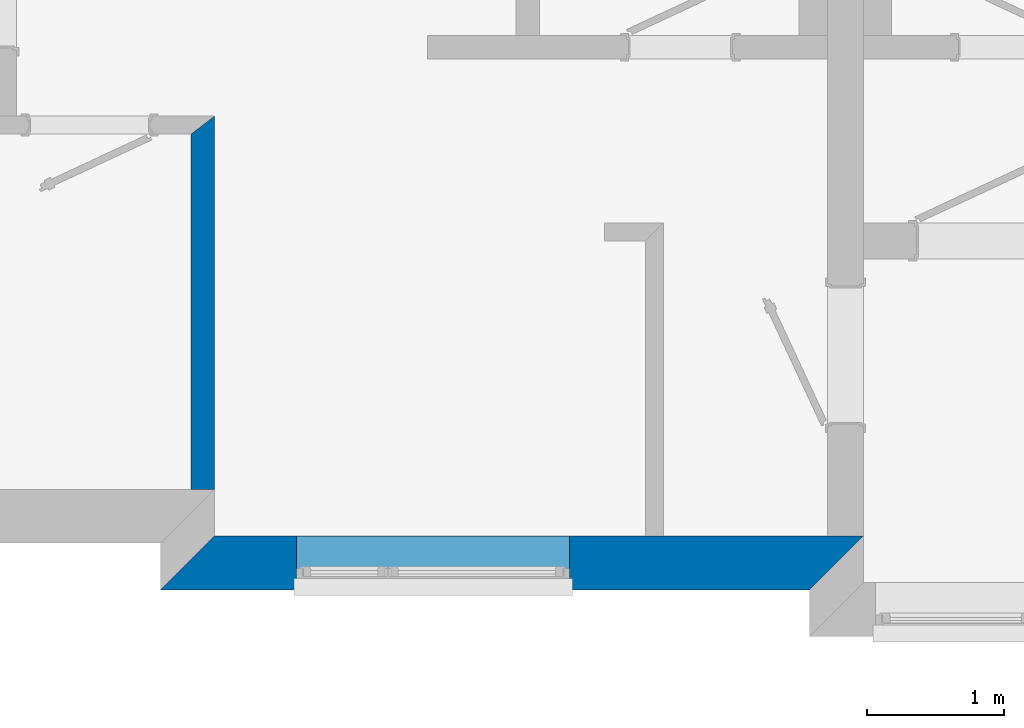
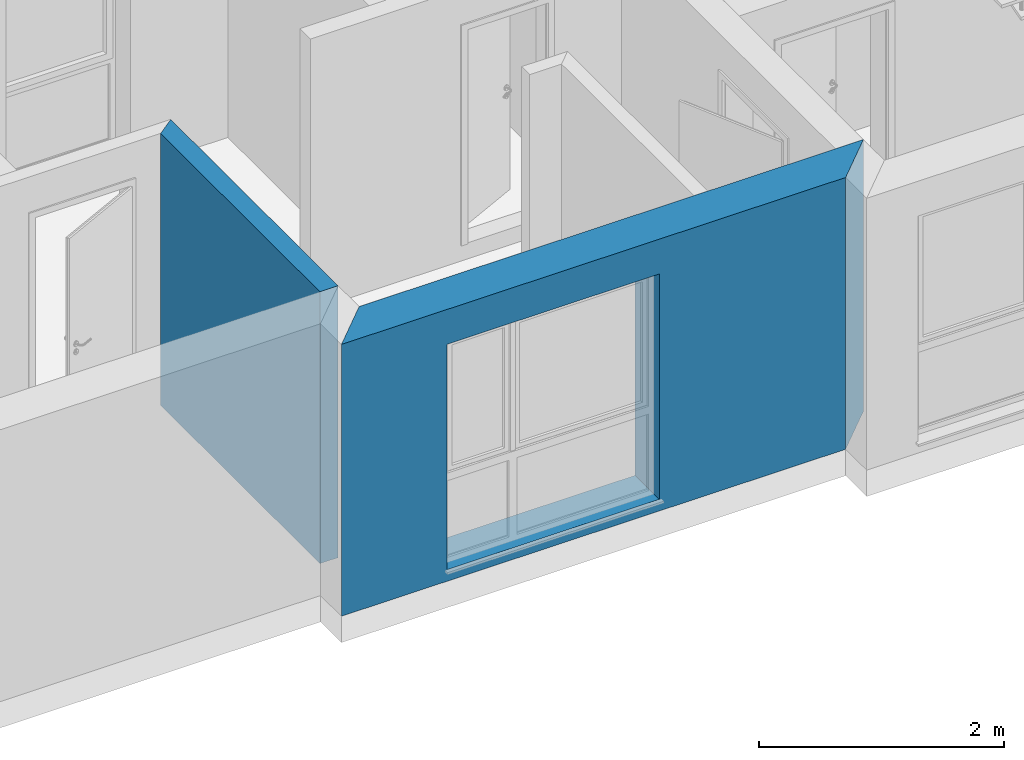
# One storey, part 2 of 16: 2 walls, 1 opening.
"""IFC2X3 building model written with IfcOpenShell, lengths in millimetres."""

from ifc_helpers import new_model, si_unit, frame, origin_with_axes, place, context, project, spatial, faceted_brep, material, layer, layer_set, layer_usage, element, save


model = new_model("IFC2X3")

# Units and contexts
model_context = context("Model", 3, world=origin_with_axes())
ifc_project = project(units=[si_unit("LENGTHUNIT", "METRE", prefix="MILLI")], contexts=[model_context])

# Site, building, storey
site_placement = place(None, origin_with_axes())
site = spatial("IfcSite", under=ifc_project, at=site_placement, Name="Site", CompositionType="ELEMENT")
building_placement = place(site_placement, origin_with_axes())
building = spatial("IfcBuilding", under=site, at=building_placement, Name="?", CompositionType="ELEMENT")
storey_placement = place(building_placement, frame((0.0, 0.0, 2969.0), z_axis=(0.0, 0.0, 1.0), x_axis=(1.0, 0.0, 0.0)))
storey = spatial("IfcBuildingStorey", under=building, at=storey_placement, Name="Obergeschoß 1", CompositionType="ELEMENT", Elevation=2969.0)

# Wall, opening
ifc_material_1 = material(Name="Material_AW")
ifc_layer_1 = layer(ifc_material_1, 395.0, ventilated=False)
ifc_layer_set_1 = layer_set([ifc_layer_1], Name="MaterialLayerSet_AW")
ifc_layer_usage_1 = layer_usage(ifc_layer_set_1, "AXIS2", "NEGATIVE", 197.5)
wall_1_placement = place(storey_placement, frame((9697.5, -6558.5, 0.0), z_axis=(0.0, 0.0, 1.0), x_axis=(-1.0, 0.0, 0.0)))
wall_1 = element("IfcWall", 1, at=wall_1_placement, inside=storey, material=ifc_layer_usage_1, Name="AW-17", context=model_context, shape_type="Brep", body=[
    faceted_brep([(4552.50024192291, -197.5, 0.0), (4552.50024192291, -197.5, 2707.0), (-197.500000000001, -197.5, 2707.0), (-197.500000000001, -197.5, 0.0), (4947.50024192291, 197.5, 0.0), (4947.50024192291, 197.5, 2707.0), (4552.50024192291, -197.5, 2707.0), (4552.50024192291, -197.5, 0.0), (197.5, 197.5, 0.0), (197.5, 197.5, 2707.0), (4947.50024192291, 197.5, 2707.0), (4947.50024192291, 197.5, 0.0), (-197.5, -197.5, 0.0), (-197.5, -197.5, 2707.0), (197.5, 197.5, 2707.0), (197.5, 197.5, 0.0), (-197.5, -197.5, 0.0), (197.5, 197.5, 0.0), (4947.50024192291, 197.5, 0.0), (4552.50024192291, -197.5, 0.0), (197.5, 197.5, 2707.0), (-197.5, -197.5, 2707.0), (4552.50024192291, -197.5, 2707.0), (4947.50024192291, 197.5, 2707.0)], [[[0, 1, 2, 3]], [[4, 5, 6, 7]], [[8, 9, 10, 11]], [[12, 13, 14, 15]], [[16, 17, 18, 19]], [[20, 21, 22, 23]]]),
])
opening_placement = place(wall_1_placement, frame((1952.5, 0.0, 116.0), z_axis=(0.0, 0.0, 1.0), x_axis=(1.0, 0.0, 0.0)))
element("IfcOpeningElement", 2, at=opening_placement, cuts=wall_1, Name="AW-17|FE18", context=model_context, shape_type="Brep", body=[
    faceted_brep([(0.0, 207.5, 0.0), (0.0, 207.5, 2244.0), (2000.0, 207.5, 2244.0), (2000.0, 207.5, 0.0), (0.0, -207.5, 0.0), (0.0, -207.5, 2244.0), (0.0, 207.5, 2244.0), (0.0, 207.5, 0.0), (2000.0, -207.5, 0.0), (0.0, -207.5, 0.0), (0.0, 207.5, 0.0), (2000.0, 207.5, 0.0), (2000.0, -207.5, 2244.0), (2000.0, -207.5, 0.0), (2000.0, 207.5, 0.0), (2000.0, 207.5, 2244.0), (0.0, -207.5, 2244.0), (2000.0, -207.5, 2244.0), (2000.0, 207.5, 2244.0), (0.0, 207.5, 2244.0), (0.0, -207.5, 0.0), (2000.0, -207.5, 0.0), (2000.0, -207.5, 2244.0), (0.0, -207.5, 2244.0)], [[[0, 1, 2, 3]], [[4, 5, 6, 7]], [[8, 9, 10, 11]], [[12, 13, 14, 15]], [[16, 17, 18, 19]], [[20, 21, 22, 23]]]),
])

# Wall
ifc_material_2 = material(Name="Material_IW")
ifc_layer_2 = layer(ifc_material_2, 172.0, ventilated=False)
ifc_layer_set_2 = layer_set([ifc_layer_2], Name="MaterialLayerSet_IW")
ifc_layer_usage_2 = layer_usage(ifc_layer_set_2, "AXIS2", "NEGATIVE", 86.0)
wall_2_placement = place(storey_placement, frame((5059.0, -6020.0, 0.0), z_axis=(0.0, 0.0, 1.0), x_axis=(0.0, 1.0, 0.0)))
element("IfcWall", 3, at=wall_2_placement, inside=storey, material=ifc_layer_usage_2, Name="IW-33", context=model_context, shape_type="Brep", body=[
    faceted_brep([(2731.99993418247, -86.0, 0.0), (2731.99993418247, -86.0, 2707.0), (0.0, -86.0, 2707.0), (0.0, -86.0, 0.0), (2600.00001983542, 86.0, 0.0), (2600.00001983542, 86.0, 2707.0), (2731.99993418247, -86.0000000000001, 2707.0), (2731.99993418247, -86.0000000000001, 0.0), (0.0, 86.0, 0.0), (0.0, 86.0, 2707.0), (2600.00001983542, 86.0, 2707.0), (2600.00001983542, 86.0, 0.0), (0.0, -86.0, 0.0), (0.0, -86.0, 2707.0), (0.0, 86.0, 2707.0), (0.0, 86.0, 0.0), (0.0, -86.0, 0.0), (0.0, 86.0, 0.0), (2600.00001983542, 86.0, 0.0), (2731.99993418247, -86.0, 0.0), (0.0, -86.0, 2707.0), (2731.99993418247, -86.0, 2707.0), (2600.00001983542, 86.0, 2707.0), (0.0, 86.0, 2707.0)], [[[0, 1, 2, 3]], [[4, 5, 6, 7]], [[8, 9, 10, 11]], [[12, 13, 14, 15]], [[16, 17, 18, 19]], [[20, 21, 22, 23]]]),
])

save(model, "model.ifc")
